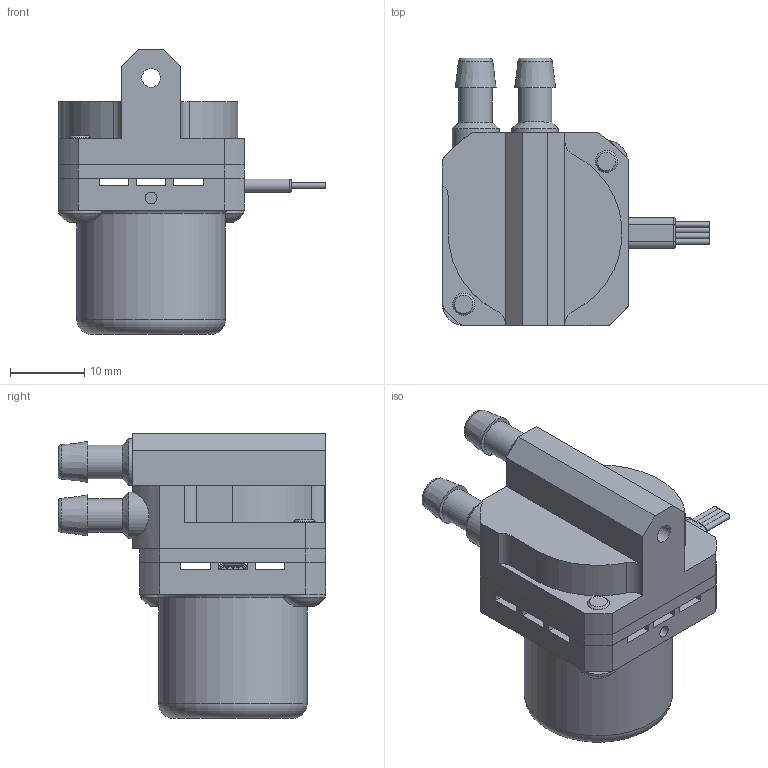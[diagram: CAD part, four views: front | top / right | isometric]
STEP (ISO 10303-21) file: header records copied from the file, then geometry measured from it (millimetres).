
FILE_DESCRIPTION (( 'STEP AP214' ), '1' );
FILE_NAME ('M400K REV 1.STEP', '2018-06-20T13:51:52', ( '' ), ( '' ), 'SwSTEP 2.0', 'SolidWorks 2016', '' );
FILE_SCHEMA (( 'AUTOMOTIVE_DESIGN' ));
Length unit declared in the file: millimetre
Products named in the file (1): M400K REV 1
Bounding box: 36 x 36 x 38.3 mm (x, y, z)
Surface area: 6797 mm2 (no closed solid volume)
Topology: 0 solids, 11 shells, 153 faces, 433 edges, 291 vertices
Faces by surface type: plane 94, cylinder 41, cone 10, torus 6, sphere 2
Full cylindrical faces by diameter (mm): 1.6 x1, 2.5 x1, 3 x2, 3.5 x2, 4.5 x2, 5.7 x2, 6.3 x2, 20 x1
Entity records: 6516 total; most frequent: CARTESIAN_POINT 895, DIRECTION 846, ORIENTED_EDGE 688, EDGE_CURVE 403, AXIS2_PLACEMENT_3D 291, VERTEX_POINT 288, LINE 264, VECTOR 264
